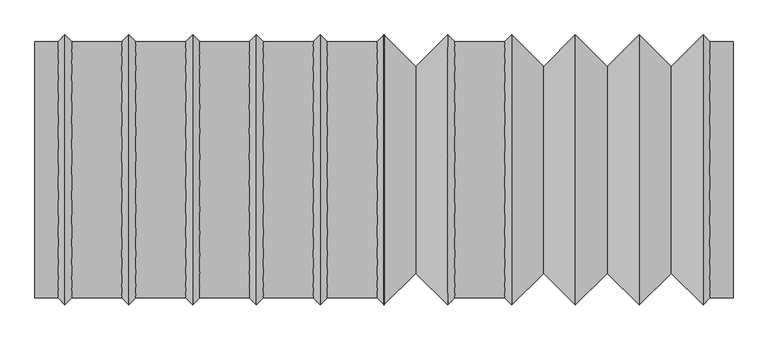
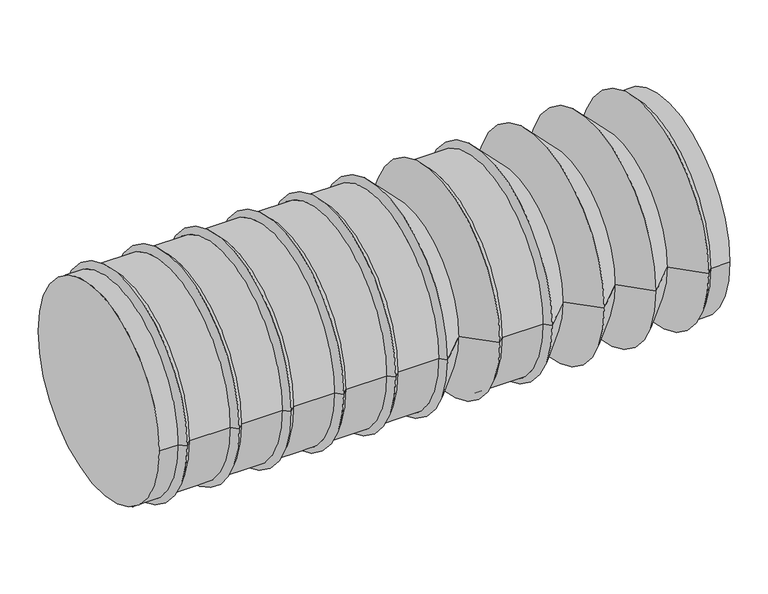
"""IFC4 building model written with IfcOpenShell, lengths in millimetres: proxy geometry, WIN.HB.2200x6040L-10."""

from ifc_helpers import new_model, si_unit, frame, origin, place, context, project, spatial, polyline, circle_curve, source, transform, mapped, element, save
from ifc_brep_helpers import plane_surface, cylinder_surface, revolved_surface, advanced_brep


def generic_models_efb8525f(model_context):
    return source(origin(), model_context, "Body", "AdvancedBrep", [
        advanced_brep(
        [(-5840.0, 1110.0, 0.0), (-6040.0, 1110.0, 0.0), (-6040.0, -1110.0, 0.0), (-5840.0, -1110.0, 0.0), (-4736.0, 1110.0, 0.0), (-5168.0, 1110.0, 0.0), (-5168.0, -1110.0, 0.0), (-4736.0, -1110.0, 0.0), (-4184.0, 1110.0, 0.0), (-4616.0, 1110.0, 0.0), (-4616.0, -1110.0, 0.0), (-4184.0, -1110.0, 0.0), (-3632.0, 1110.0, 0.0), (-4064.0, 1110.0, 0.0), (-4064.0, -1110.0, 0.0), (-3632.0, -1110.0, 0.0), (-1976.0, 1110.0, 0.0), (-2408.0, 1110.0, 0.0), (-2408.0, -1110.0, 0.0), (-1976.0, -1110.0, 0.0), (-1916.0, 1170.0, 0.0), (-1916.0, -1170.0, 0.0), (-3572.0, 1170.0, 0.0), (-3572.0, -1170.0, 0.0), (-4124.0, 1170.0, 0.0), (-4124.0, -1170.0, 0.0), (-4676.0, 1170.0, 0.0), (-4676.0, -1170.0, 0.0), (-5780.0, 1170.0, 0.0), (-5780.0, -1170.0, 0.0), (-5720.0, 1110.0, 0.0), (-5720.0, -1110.0, 0.0), (-3512.0, 1110.0, 0.0), (-3512.0, -1110.0, 0.0), (-2744.0, 894.0, 0.0), (-3020.0, 1170.0, 0.0), (-3020.0, 1157.6616666, 169.4681847), (-3020.0, -1170.0, 0.0), (-2744.0, -894.0, 0.0), (-2468.0, 1170.0, 0.0), (-2468.0, 1160.2463222, 150.7596492), (-2468.0, -1170.0, 0.0), (-3080.0, 1110.0, 0.0), (-3080.0, -1110.0, 0.0), (-3080.0, 1108.3974749, 59.6241354), (-5228.0, 1170.0, 0.0), (-5228.0, -1170.0, 0.0), (-5288.0, 1110.0, 0.0), (-5288.0, 1070.8833962, 292.0766195), (-5288.0, -1110.0, 0.0), (-260.0, 1170.0, 0.0), (-536.0, 894.0, 0.0), (-536.0, -894.0, 0.0), (-260.0, -1170.0, 0.0), (0.0, 1110.0, 0.0), (-200.0, 1110.0, 0.0), (-200.0, -1110.0, 0.0), (0.0, -1110.0, 0.0), (-1364.0, 1170.0, 0.0), (-1640.0, 894.0, 0.0), (-1640.0, -894.0, 0.0), (-1364.0, -1170.0, 0.0), (-812.0, 1170.0, 0.0), (-1088.0, 894.0, 0.0), (-1088.0, -894.0, 0.0), (-812.0, -1170.0, 0.0), (-812.0, 1102.2758789, -392.2854661), (-1364.0, 1102.2758789, -392.2854661), (-200.0, 1039.3343819, -389.7230331), (-260.0, 1102.2758789, -392.2854661), (-5228.0, 1113.1401766, -360.3039649), (-5168.0, 1061.8178428, -323.4854999), (-2408.0, 1109.986839, -5.4052991)],
        [
            (0, 1),
            (1, 2, circle_curve(frame((-6040.0, 0.0, 0.0), z_axis=(1.0, 0.0, 0.0), x_axis=(0.0, 1.0, 0.0)), 1110.0)),
            (2, 3),
            (3, 0, circle_curve(frame((-5840.0, 0.0, 0.0), z_axis=(-1.0, 0.0, 0.0), x_axis=(0.0, 1.0, 0.0)), 1110.0)),
            (4, 5),
            (5, 6, circle_curve(frame((-5168.0, 0.0, 0.0), z_axis=(1.0, 0.0, 0.0), x_axis=(0.0, 1.0, 0.0)), 1110.0)),
            (6, 7),
            (7, 4, circle_curve(frame((-4736.0, 0.0, 0.0), z_axis=(-1.0, 0.0, 0.0), x_axis=(0.0, 1.0, 0.0)), 1110.0)),
            (8, 9),
            (9, 10, circle_curve(frame((-4616.0, 0.0, 0.0), z_axis=(1.0, 0.0, 0.0), x_axis=(0.0, 1.0, 0.0)), 1110.0)),
            (10, 11),
            (11, 8, circle_curve(frame((-4184.0, 0.0, 0.0), z_axis=(-1.0, 0.0, 0.0), x_axis=(0.0, 1.0, 0.0)), 1110.0)),
            (12, 13),
            (13, 14, circle_curve(frame((-4064.0, 0.0, 0.0), z_axis=(1.0, 0.0, 0.0), x_axis=(0.0, 1.0, 0.0)), 1110.0)),
            (14, 15),
            (15, 12, circle_curve(frame((-3632.0, 0.0, 0.0), z_axis=(-1.0, 0.0, 0.0), x_axis=(0.0, 1.0, 0.0)), 1110.0)),
            (16, 17),
            (17, 18, circle_curve(frame((-2408.0, 0.0, 0.0), z_axis=(1.0, 0.0, 0.0), x_axis=(0.0, 1.0, 0.0)), 1110.0)),
            (18, 19),
            (19, 16, circle_curve(frame((-1976.0, 0.0, 0.0), z_axis=(-1.0, 0.0, 0.0), x_axis=(0.0, 1.0, 0.0)), 1110.0)),
            (20, 16),
            (19, 21),
            (21, 20, circle_curve(frame((-1916.0, 0.0, 0.0), z_axis=(-1.0, 0.0, 0.0), x_axis=(0.0, -1.0, 0.0)), 1170.0)),
            (22, 12),
            (15, 23),
            (23, 22, circle_curve(frame((-3572.0, 0.0, 0.0), z_axis=(-1.0, 0.0, 0.0), x_axis=(0.0, -1.0, 0.0)), 1170.0)),
            (24, 8),
            (11, 25),
            (25, 24, circle_curve(frame((-4124.0, 0.0, 0.0), z_axis=(-1.0, 0.0, 0.0), x_axis=(0.0, -1.0, 0.0)), 1170.0)),
            (26, 4),
            (7, 27),
            (27, 26, circle_curve(frame((-4676.0, 0.0, 0.0), z_axis=(-1.0, 0.0, 0.0), x_axis=(0.0, -1.0, 0.0)), 1170.0)),
            (28, 0),
            (3, 29),
            (29, 28, circle_curve(frame((-5780.0, 0.0, 0.0), z_axis=(-1.0, 0.0, 0.0), x_axis=(0.0, -1.0, 0.0)), 1170.0)),
            (30, 28),
            (29, 31),
            (31, 30, circle_curve(frame((-5720.0, 0.0, 0.0), z_axis=(-1.0, 0.0, 0.0), x_axis=(0.0, -1.0, 0.0)), 1110.0)),
            (9, 26),
            (27, 10),
            (13, 24),
            (25, 14),
            (32, 22),
            (23, 33),
            (33, 32, circle_curve(frame((-3512.0, 0.0, 0.0), z_axis=(-1.0, 0.0, 0.0), x_axis=(0.0, -1.0, 0.0)), 1110.0)),
            (34, 35),
            (35, 36, circle_curve(frame((-3020.0, 0.0, 0.0), z_axis=(1.0, 0.0, 0.0), x_axis=(0.0, -1.0, 0.0)), 1170.0)),
            (36, 37, circle_curve(frame((-3020.0, 0.0, 0.0), z_axis=(1.0, 0.0, 0.0), x_axis=(0.0, -1.0, 0.0)), 1170.0)),
            (37, 38),
            (38, 34, circle_curve(frame((-2744.0, 0.0, 0.0), z_axis=(-1.0, 0.0, 0.0), x_axis=(0.0, -1.0, 0.0)), 894.0)),
            (17, 39),
            (39, 40, circle_curve(frame((-2468.0, 0.0, 0.0), z_axis=(1.0, 0.0, 0.0), x_axis=(0.0, -1.0, 0.0)), 1170.0)),
            (40, 41, circle_curve(frame((-2468.0, 0.0, 0.0), z_axis=(1.0, 0.0, 0.0), x_axis=(0.0, -1.0, 0.0)), 1170.0)),
            (41, 18),
            (42, 32),
            (33, 43),
            (43, 44, circle_curve(frame((-3080.0, 0.0, 0.0), z_axis=(-1.0, 0.0, 0.0), x_axis=(0.0, 1.0, 0.0)), 1110.0)),
            (44, 42, circle_curve(frame((-3080.0, 0.0, 0.0), z_axis=(-1.0, 0.0, 0.0), x_axis=(0.0, 1.0, 0.0)), 1110.0)),
            (35, 42),
            (43, 37),
            (5, 45),
            (45, 46, circle_curve(frame((-5228.0, 0.0, 0.0), z_axis=(1.0, 0.0, 0.0), x_axis=(0.0, -1.0, 0.0)), 1170.0)),
            (46, 6),
            (45, 47),
            (47, 48, circle_curve(frame((-5288.0, 0.0, 0.0), z_axis=(1.0, 0.0, 0.0), x_axis=(0.0, -1.0, 0.0)), 1110.0)),
            (48, 49, circle_curve(frame((-5288.0, 0.0, 0.0), z_axis=(1.0, 0.0, 0.0), x_axis=(0.0, -1.0, 0.0)), 1110.0)),
            (49, 46),
            (47, 30),
            (31, 49),
            (50, 51),
            (51, 52, circle_curve(frame((-536.0, 0.0, 0.0), z_axis=(1.0, 0.0, 0.0), x_axis=(0.0, -1.0, 0.0)), 894.0)),
            (52, 53),
            (53, 50, circle_curve(frame((-260.0, 0.0, 0.0), z_axis=(-1.0, 0.0, 0.0), x_axis=(0.0, -1.0, 0.0)), 1170.0)),
            (54, 55),
            (55, 56, circle_curve(frame((-200.0, 0.0, 0.0), z_axis=(1.0, 0.0, 0.0), x_axis=(0.0, 1.0, 0.0)), 1110.0)),
            (56, 57),
            (57, 54, circle_curve(frame((0.0, 0.0, 0.0), z_axis=(-1.0, 0.0, 0.0), x_axis=(0.0, 1.0, 0.0)), 1110.0)),
            (55, 50),
            (53, 56),
            (58, 59),
            (59, 60, circle_curve(frame((-1640.0, 0.0, 0.0), z_axis=(1.0, 0.0, 0.0), x_axis=(0.0, -1.0, 0.0)), 894.0)),
            (60, 61),
            (61, 58, circle_curve(frame((-1364.0, 0.0, 0.0), z_axis=(-1.0, 0.0, 0.0), x_axis=(0.0, -1.0, 0.0)), 1170.0)),
            (62, 63),
            (63, 64, circle_curve(frame((-1088.0, 0.0, 0.0), z_axis=(1.0, 0.0, 0.0), x_axis=(0.0, -1.0, 0.0)), 894.0)),
            (64, 65),
            (65, 62, circle_curve(frame((-812.0, 0.0, 0.0), z_axis=(-1.0, 0.0, 0.0), x_axis=(0.0, -1.0, 0.0)), 1170.0)),
            (63, 58),
            (61, 64),
            (59, 20),
            (21, 60),
            (51, 62),
            (65, 52),
            (39, 34),
            (38, 41),
            (39, 41, circle_curve(frame((-2468.0, 0.0, 0.0), z_axis=(-1.0, 0.0, 0.0), x_axis=(0.0, 1.0, 0.0)), 1170.0)),
            (38, 34, circle_curve(frame((-2744.0, 0.0, 0.0), z_axis=(1.0, 0.0, 0.0), x_axis=(0.0, 1.0, 0.0)), 894.0)),
            (51, 52, circle_curve(frame((-536.0, 0.0, 0.0), z_axis=(-1.0, 0.0, 0.0), x_axis=(0.0, 1.0, 0.0)), 894.0)),
            (65, 66, circle_curve(frame((-812.0, 0.0, 0.0), z_axis=(1.0, 0.0, 0.0), x_axis=(0.0, 1.0, 0.0)), 1170.0)),
            (66, 62, circle_curve(frame((-812.0, 0.0, 0.0), z_axis=(1.0, 0.0, 0.0), x_axis=(0.0, 1.0, 0.0)), 1170.0)),
            (59, 60, circle_curve(frame((-1640.0, 0.0, 0.0), z_axis=(-1.0, 0.0, 0.0), x_axis=(0.0, 1.0, 0.0)), 894.0)),
            (21, 20, circle_curve(frame((-1916.0, 0.0, 0.0), z_axis=(1.0, 0.0, 0.0), x_axis=(0.0, 1.0, 0.0)), 1170.0)),
            (63, 64, circle_curve(frame((-1088.0, 0.0, 0.0), z_axis=(-1.0, 0.0, 0.0), x_axis=(0.0, 1.0, 0.0)), 894.0)),
            (61, 67, circle_curve(frame((-1364.0, 0.0, 0.0), z_axis=(1.0, 0.0, 0.0), x_axis=(0.0, 1.0, 0.0)), 1170.0)),
            (67, 58, circle_curve(frame((-1364.0, 0.0, 0.0), z_axis=(1.0, 0.0, 0.0), x_axis=(0.0, 1.0, 0.0)), 1170.0)),
            (57, 54, circle_curve(frame((0.0, 0.0, 0.0), z_axis=(1.0, 0.0, 0.0), x_axis=(0.0, 1.0, 0.0)), 1110.0)),
            (1, 2, circle_curve(frame((-6040.0, 0.0, 0.0), z_axis=(-1.0, 0.0, 0.0), x_axis=(0.0, 1.0, 0.0)), 1110.0)),
            (55, 68, circle_curve(frame((-200.0, 0.0, 0.0), z_axis=(-1.0, 0.0, 0.0), x_axis=(0.0, 1.0, 0.0)), 1110.0)),
            (68, 56, circle_curve(frame((-200.0, 0.0, 0.0), z_axis=(-1.0, 0.0, 0.0), x_axis=(0.0, 1.0, 0.0)), 1110.0)),
            (53, 69, circle_curve(frame((-260.0, 0.0, 0.0), z_axis=(1.0, 0.0, 0.0), x_axis=(0.0, 1.0, 0.0)), 1170.0)),
            (69, 50, circle_curve(frame((-260.0, 0.0, 0.0), z_axis=(1.0, 0.0, 0.0), x_axis=(0.0, 1.0, 0.0)), 1170.0)),
            (47, 49, circle_curve(frame((-5288.0, 0.0, 0.0), z_axis=(-1.0, 0.0, 0.0), x_axis=(0.0, 1.0, 0.0)), 1110.0)),
            (31, 30, circle_curve(frame((-5720.0, 0.0, 0.0), z_axis=(1.0, 0.0, 0.0), x_axis=(0.0, 1.0, 0.0)), 1110.0)),
            (45, 70, circle_curve(frame((-5228.0, 0.0, 0.0), z_axis=(-1.0, 0.0, 0.0), x_axis=(0.0, 1.0, 0.0)), 1170.0)),
            (70, 46, circle_curve(frame((-5228.0, 0.0, 0.0), z_axis=(-1.0, 0.0, 0.0), x_axis=(0.0, 1.0, 0.0)), 1170.0)),
            (5, 71, circle_curve(frame((-5168.0, 0.0, 0.0), z_axis=(-1.0, 0.0, 0.0), x_axis=(0.0, 1.0, 0.0)), 1110.0)),
            (71, 6, circle_curve(frame((-5168.0, 0.0, 0.0), z_axis=(-1.0, 0.0, 0.0), x_axis=(0.0, 1.0, 0.0)), 1110.0)),
            (35, 37, circle_curve(frame((-3020.0, 0.0, 0.0), z_axis=(-1.0, 0.0, 0.0), x_axis=(0.0, 1.0, 0.0)), 1170.0)),
            (43, 42, circle_curve(frame((-3080.0, 0.0, 0.0), z_axis=(1.0, 0.0, 0.0), x_axis=(0.0, 1.0, 0.0)), 1110.0)),
            (33, 32, circle_curve(frame((-3512.0, 0.0, 0.0), z_axis=(1.0, 0.0, 0.0), x_axis=(0.0, 1.0, 0.0)), 1110.0)),
            (17, 72, circle_curve(frame((-2408.0, 0.0, 0.0), z_axis=(-1.0, 0.0, 0.0), x_axis=(0.0, 1.0, 0.0)), 1110.0)),
            (72, 18, circle_curve(frame((-2408.0, 0.0, 0.0), z_axis=(-1.0, 0.0, 0.0), x_axis=(0.0, 1.0, 0.0)), 1110.0)),
            (23, 22, circle_curve(frame((-3572.0, 0.0, 0.0), z_axis=(1.0, 0.0, 0.0), x_axis=(0.0, 1.0, 0.0)), 1170.0)),
            (13, 14, circle_curve(frame((-4064.0, 0.0, 0.0), z_axis=(-1.0, 0.0, 0.0), x_axis=(0.0, 1.0, 0.0)), 1110.0)),
            (25, 24, circle_curve(frame((-4124.0, 0.0, 0.0), z_axis=(1.0, 0.0, 0.0), x_axis=(0.0, 1.0, 0.0)), 1170.0)),
            (9, 10, circle_curve(frame((-4616.0, 0.0, 0.0), z_axis=(-1.0, 0.0, 0.0), x_axis=(0.0, 1.0, 0.0)), 1110.0)),
            (27, 26, circle_curve(frame((-4676.0, 0.0, 0.0), z_axis=(1.0, 0.0, 0.0), x_axis=(0.0, 1.0, 0.0)), 1170.0)),
            (29, 28, circle_curve(frame((-5780.0, 0.0, 0.0), z_axis=(1.0, 0.0, 0.0), x_axis=(0.0, 1.0, 0.0)), 1170.0)),
            (3, 0, circle_curve(frame((-5840.0, 0.0, 0.0), z_axis=(1.0, 0.0, 0.0), x_axis=(0.0, 1.0, 0.0)), 1110.0)),
            (7, 4, circle_curve(frame((-4736.0, 0.0, 0.0), z_axis=(1.0, 0.0, 0.0), x_axis=(0.0, 1.0, 0.0)), 1110.0)),
            (11, 8, circle_curve(frame((-4184.0, 0.0, 0.0), z_axis=(1.0, 0.0, 0.0), x_axis=(0.0, 1.0, 0.0)), 1110.0)),
            (15, 12, circle_curve(frame((-3632.0, 0.0, 0.0), z_axis=(1.0, 0.0, 0.0), x_axis=(0.0, 1.0, 0.0)), 1110.0)),
            (19, 16, circle_curve(frame((-1976.0, 0.0, 0.0), z_axis=(1.0, 0.0, 0.0), x_axis=(0.0, 1.0, 0.0)), 1110.0)),
        ],
        [
            cylinder_surface(frame((-3020.0, 0.0, 0.0), z_axis=(-1.0, 0.0, 0.0), x_axis=(0.0, 1.0, 0.0)), 1110.0),
            revolved_surface(polyline([(-1976.0, 1110.0, 0.0), (-1916.0, 1170.0, 0.0)]), (-3086.0, 0.0, 0.0), (1.0, 0.0, 0.0)),
            revolved_surface(polyline([(-3632.0, 1110.0, 0.0), (-3572.0, 1170.0, 0.0)]), (-4742.0, 0.0, 0.0), (1.0, 0.0, 0.0)),
            revolved_surface(polyline([(-4184.0, 1110.0, 0.0), (-4124.0, 1170.0, 0.0)]), (-5294.0, 0.0, 0.0), (1.0, 0.0, 0.0)),
            revolved_surface(polyline([(-4736.0, 1110.0, 0.0), (-4676.0, 1170.0, 0.0)]), (-5846.0, 0.0, 0.0), (1.0, 0.0, 0.0)),
            revolved_surface(polyline([(-5840.0, 1110.0, 0.0), (-5780.0, 1170.0, 0.0)]), (-6950.0, 0.0, 0.0), (1.0, 0.0, 0.0)),
            revolved_surface(polyline([(-5720.0, 1110.0, 0.0), (-5780.0, 1170.0, 0.0)]), (-4610.0, 0.0, 0.0), (-1.0, 0.0, 0.0)),
            revolved_surface(polyline([(-4616.0, 1110.0, 0.0), (-4676.0, 1170.0, 0.0)]), (-3506.0, 0.0, 0.0), (-1.0, 0.0, 0.0)),
            revolved_surface(polyline([(-4064.0, 1110.0, 0.0), (-4124.0, 1170.0, 0.0)]), (-2954.0, 0.0, 0.0), (-1.0, 0.0, 0.0)),
            revolved_surface(polyline([(-3512.0, 1110.0, 0.0), (-3572.0, 1170.0, 0.0)]), (-2402.0, 0.0, 0.0), (-1.0, 0.0, 0.0)),
            revolved_surface(polyline([(-2744.0, 893.9999999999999, 0.0), (-3020.0, 1170.0, 0.0)]), (-1850.0, 0.0, 0.0), (-1.0, 0.0, 0.0)),
            revolved_surface(polyline([(-2408.0, 1110.0, 0.0), (-2468.0, 1170.0, 0.0)]), (-1298.0, 0.0, 0.0), (-1.0, 0.0, 0.0)),
            revolved_surface(polyline([(-3080.0, 1110.0, 0.0), (-3020.0, 1170.0, 0.0)]), (-4190.0, 0.0, 0.0), (1.0, 0.0, 0.0)),
            revolved_surface(polyline([(-5168.0, 1110.0, 0.0), (-5228.0, 1170.0, 0.0)]), (-4058.0, 0.0, 0.0), (-1.0, 0.0, 0.0)),
            revolved_surface(polyline([(-5288.0, 1110.0, 0.0), (-5228.0, 1170.0, 0.0)]), (-6398.0, 0.0, 0.0), (1.0, 0.0, 0.0)),
            revolved_surface(polyline([(-536.0000000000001, 893.9999999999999, 0.0), (-260.0, 1170.0, 0.0)]), (-1430.0, 0.0, 0.0), (1.0, 0.0, 0.0)),
            revolved_surface(polyline([(-200.0, 1110.0, 0.0), (-260.0, 1170.0, 0.0)]), (910.0, 0.0, 0.0), (-1.0, 0.0, 0.0)),
            revolved_surface(polyline([(-1640.0, 893.9999999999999, 0.0), (-1364.0, 1170.0, 0.0)]), (-2534.0, 0.0, 0.0), (1.0, 0.0, 0.0)),
            revolved_surface(polyline([(-1088.0, 893.9999999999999, 0.0), (-812.0, 1170.0, 0.0)]), (-1982.0, 0.0, 0.0), (1.0, 0.0, 0.0)),
            revolved_surface(polyline([(-1088.0, 893.9999999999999, 0.0), (-1364.0, 1170.0, 0.0)]), (-194.0, 0.0, 0.0), (-1.0, 0.0, 0.0)),
            revolved_surface(polyline([(-1640.0, 893.9999999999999, 0.0), (-1916.0, 1170.0, 0.0)]), (-746.0, 0.0, 0.0), (-1.0, 0.0, 0.0)),
            revolved_surface(polyline([(-535.9999999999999, 893.9999999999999, 0.0), (-812.0, 1170.0, 0.0)]), (358.0, 0.0, 0.0), (-1.0, 0.0, 0.0)),
            revolved_surface(polyline([(-2744.0, 893.9999999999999, 0.0), (-2468.0, 1170.0, 0.0)]), (-3638.0, 0.0, 0.0), (1.0, 0.0, 0.0)),
            plane_surface(frame((0.0, 1110.0, 0.0), z_axis=(1.0, 0.0, 0.0), x_axis=(0.0, 0.0, -1.0))),
            plane_surface(frame((-6040.0, 1100.0, 0.0), z_axis=(-1.0, 0.0, 0.0), x_axis=(0.0, 0.0, 1.0))),
        ],
        [
            (0, [[1, 2, 3, 4]]),
            (0, [[5, 6, 7, 8]]),
            (0, [[9, 10, 11, 12]]),
            (0, [[13, 14, 15, 16]]),
            (0, [[17, 18, 19, 20]]),
            (1, [[21, -20, 22, 23]]),
            (2, [[24, -16, 25, 26]]),
            (3, [[27, -12, 28, 29]]),
            (4, [[30, -8, 31, 32]]),
            (5, [[33, -4, 34, 35]]),
            (6, [[36, -35, 37, 38]]),
            (7, [[39, -32, 40, -10]]),
            (8, [[41, -29, 42, -14]]),
            (9, [[43, -26, 44, 45]]),
            (10, [[46, 47, 48, 49, 50]]),
            (11, [[51, 52, 53, 54, -18]]),
            (0, [[55, -45, 56, 57, 58]]),
            (12, [[59, -58, -57, 60, -48, -47]]),
            (13, [[61, 62, 63, -6]]),
            (14, [[64, 65, 66, 67, -62]]),
            (0, [[68, -38, 69, -66, -65]]),
            (15, [[70, 71, 72, 73]]),
            (0, [[74, 75, 76, 77]]),
            (16, [[78, -73, 79, -75]]),
            (17, [[80, 81, 82, 83]]),
            (18, [[84, 85, 86, 87]]),
            (19, [[88, -83, 89, -85]]),
            (20, [[90, -23, 91, -81]]),
            (21, [[92, -87, 93, -71]]),
            (22, [[94, -50, 95, -53, -52]]),
            (22, [[-94, 96, -95, 97]]),
            (21, [[-92, 98, -93, 99, 100]]),
            (20, [[-90, 101, -91, 102]]),
            (19, [[-88, 103, -89, 104, 105]]),
            (23, [[106, -77]]),
            (24, [[107, -2]]),
            (18, [[-84, -100, -99, -86, -103]]),
            (17, [[-80, -105, -104, -82, -101]]),
            (16, [[-78, 108, 109, -79, 110, 111]]),
            (0, [[-74, -106, -76, -109, -108]]),
            (15, [[-70, -111, -110, -72, -98]]),
            (0, [[-68, 112, -69, 113]]),
            (14, [[-64, 114, 115, -67, -112]]),
            (13, [[-61, 116, 117, -63, -115, -114]]),
            (12, [[-59, 118, -60, 119]]),
            (0, [[-55, -119, -56, 120]]),
            (11, [[-51, 121, 122, -54, -96]]),
            (10, [[-46, -97, -49, -118]]),
            (9, [[-43, -120, -44, 123]]),
            (8, [[-41, 124, -42, 125]]),
            (7, [[-39, 126, -40, 127]]),
            (6, [[-36, -113, -37, 128]]),
            (5, [[-33, -128, -34, 129]]),
            (4, [[-30, -127, -31, 130]]),
            (3, [[-27, -125, -28, 131]]),
            (2, [[-24, -123, -25, 132]]),
            (1, [[-21, -102, -22, 133]]),
            (0, [[-17, -133, -19, -122, -121]]),
            (0, [[-13, -132, -15, -124]]),
            (0, [[-9, -131, -11, -126]]),
            (0, [[-5, -130, -7, -117, -116]]),
            (0, [[-1, -129, -3, -107]]),
        ],
    ),
    ])


if __name__ == "__main__":
    model = new_model("IFC4")
    model_context = context("Model", 3, world=origin())
    ifc_project = project(units=[si_unit("LENGTHUNIT", "METRE", prefix="MILLI")], contexts=[model_context])
    site = spatial("IfcSite", under=ifc_project)
    building = spatial("IfcBuilding", under=site)
    placement = place(None, origin())
    generic_models_shape = generic_models_efb8525f(model_context)
    element("IfcBuildingElementProxy", 1, Name="WIN.HB.2200x6040L-10", ObjectType="WIN.HB.2200x6040L-10", at=placement, inside=building, context=model_context, shape_type="MappedRepresentation", body=[
        mapped(generic_models_shape, transform((0.0, 0.0, 0.0), x_axis=(1.0, 0.0, 0.0), y_axis=(0.0, 1.0, 0.0), z_axis=(0.0, 0.0, 1.0))),
    ])
    save(model, "model.ifc")
